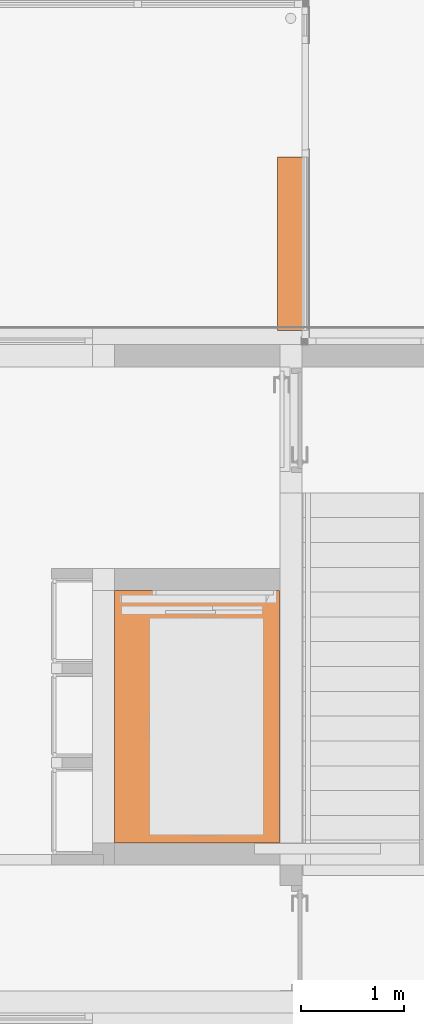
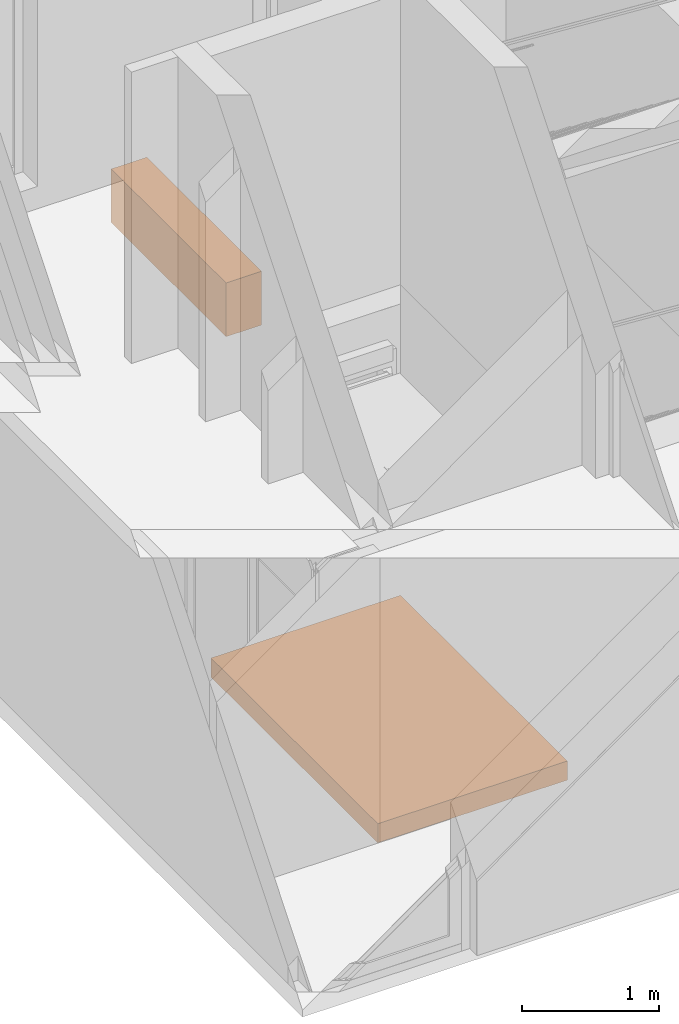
# One storey, part 115 of 117: 2 proxies.
"""IFC2X3 building model written with IfcOpenShell, lengths in millimetres."""

from ifc_helpers import new_model, entity, si_unit, converted_unit, derived_unit, money_unit, direction, frame, origin_with_axes, place, context, subcontext, project, spatial, faceted_brep, material, type_object, element, save


model = new_model("IFC2X3")

# Units and contexts
model_context = context("Model", 3, precision=0.01, world=origin_with_axes(), true_north=direction((0.0, 1.0)))
body_context = subcontext(model_context, "Body", "Model", "MODEL_VIEW")
ifc_project = project(units=[si_unit("LENGTHUNIT", "METRE", prefix="MILLI"), si_unit("AREAUNIT", "SQUARE_METRE"), si_unit("VOLUMEUNIT", "CUBIC_METRE"), converted_unit("PLANEANGLEUNIT", "DEGREE", entity("IfcPlaneAngleMeasure", 0.0174532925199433), si_unit("PLANEANGLEUNIT", "RADIAN"), dimensions=[0, 0, 0, 0, 0, 0, 0]), money_unit("EUR"), converted_unit("TIMEUNIT", "Year", entity("IfcTimeMeasure", 31557600.0), si_unit("TIMEUNIT", "SECOND"), dimensions=[0, 0, 1, 0, 0, 0, 0]), si_unit("MASSUNIT", "GRAM", prefix="KILO"), si_unit("THERMODYNAMICTEMPERATUREUNIT", "DEGREE_CELSIUS"), si_unit("LUMINOUSINTENSITYUNIT", "LUMEN"), si_unit("ENERGYUNIT", "JOULE", prefix="MEGA"), derived_unit("THERMALCONDUCTANCEUNIT", [(si_unit("POWERUNIT", "WATT"), 1), (si_unit("LENGTHUNIT", "METRE"), -1), (si_unit("THERMODYNAMICTEMPERATUREUNIT", "KELVIN"), -1)]), derived_unit("SPECIFICHEATCAPACITYUNIT", [(si_unit("ENERGYUNIT", "JOULE"), 1), (si_unit("MASSUNIT", "GRAM", prefix="KILO"), -1), (si_unit("THERMODYNAMICTEMPERATUREUNIT", "KELVIN"), -1)]), derived_unit("MASSDENSITYUNIT", [(si_unit("MASSUNIT", "GRAM", prefix="KILO"), 1), (si_unit("VOLUMEUNIT", "CUBIC_METRE"), -1)])], contexts=[model_context])

# Site, building, storey
site_placement = place(None, origin_with_axes())
site = spatial("IfcSite", under=ifc_project, at=site_placement, Name="Site", CompositionType="ELEMENT")
building_placement = place(site_placement, origin_with_axes())
building = spatial("IfcBuilding", under=site, at=building_placement, Name="Naam gebouw", CompositionType="ELEMENT")
storey_placement = place(building_placement, frame((0.0, 0.0, 4150.0), z_axis=(0.0, 0.0, 1.0), x_axis=(1.0, 0.0, 0.0)))
storey = spatial("IfcBuildingStorey", under=building, at=storey_placement, Name="1e verdieping N", CompositionType="ELEMENT", Elevation=4150.0)

# Proxies
ifc_material = material(Name="IFC Building Material")
building_element_proxy_type_1 = type_object("IfcBuildingElementProxyType", Name="IFC Opening Extruded", PredefinedType="NOTDEFINED")
proxy_1_placement = place(storey_placement, frame((28651.00001269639, 22625.91242505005, -4150.000000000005), z_axis=(0.0, 0.0, 1.0), x_axis=(0.0, 1.0, 0.0)))
element("IfcBuildingElementProxy", 1, at=proxy_1_placement, inside=storey, type_object=building_element_proxy_type_1, material=ifc_material, Name="_Object-x", context=body_context, shape_type="Brep", body=[
    faceted_brep([(14174.00000127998, -4846.999987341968, 210.0), (14174.00000127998, -3246.999987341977, 210.0), (14174.00000127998, -3246.999987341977, 379.9999999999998), (14174.00000127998, -4846.999987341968, 379.9999999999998), (11734.00000127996, -4846.999987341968, 210.0), (11734.00000127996, -3246.999987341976, 210.0), (11734.00000127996, -3246.999987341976, 379.9999999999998), (11734.00000127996, -4846.999987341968, 379.9999999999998)], [[[0, 1, 2, 3]], [[0, 4, 5, 1]], [[1, 5, 6, 2]], [[3, 2, 6, 7]], [[4, 0, 3, 7]], [[5, 4, 7, 6]]]),
])
building_element_proxy_type_2 = type_object("IfcBuildingElementProxyType", Name="71_postkasten BBK 10 stuks R21:71_postkasten BBK 10 stuks R21", PredefinedType="NOTDEFINED")
proxy_2_placement = place(storey_placement, frame((33778.0000000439, 39314.91242628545, -2981.666666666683), z_axis=(0.0, 0.0, 1.0), x_axis=(0.0, 1.0, 0.0)))
element("IfcBuildingElementProxy", 2, at=proxy_2_placement, inside=storey, type_object=building_element_proxy_type_2, material=ifc_material, Name="71_postkasten BBK 10 stuks R21:71_postkasten BBK 10 stuks R21", context=body_context, shape_type="Brep", body=[
    faceted_brep([(1301.50000000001, -10.0, 331.5000000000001), (1609.50000000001, -10.0, 331.5000000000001), (1609.50000000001, -10.0, 409.5000000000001), (1301.50000000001, -10.0, 409.5000000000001), (1301.50000000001, 0.0, 331.5000000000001), (1609.50000000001, 0.0, 331.5000000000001), (1609.50000000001, 0.0, 409.5000000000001), (1301.50000000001, 0.0, 409.5000000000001)], [[[0, 1, 2, 3]], [[0, 4, 5, 1]], [[1, 5, 6, 2]], [[3, 2, 6, 7]], [[4, 0, 3, 7]], [[5, 4, 7, 6]]]),
    faceted_brep([(1301.50000000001, -10.0, 161.5), (1609.50000000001, -10.0, 161.5), (1609.50000000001, -10.0, 239.5), (1301.50000000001, -10.0, 239.5), (1301.50000000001, 0.0, 161.5), (1609.50000000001, 0.0, 161.5), (1609.50000000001, 0.0, 239.5), (1301.50000000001, 0.0, 239.5)], [[[0, 1, 2, 3]], [[0, 4, 5, 1]], [[1, 5, 6, 2]], [[3, 2, 6, 7]], [[4, 0, 3, 7]], [[5, 4, 7, 6]]]),
    faceted_brep([(993.4999999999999, -10.0, 331.5000000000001), (1301.5, -10.0, 331.5000000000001), (1301.5, -10.0, 409.5000000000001), (993.4999999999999, -10.0, 409.5000000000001), (993.4999999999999, 0.0, 331.5000000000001), (1301.5, 0.0, 331.5000000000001), (1301.5, 0.0, 409.5000000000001), (993.4999999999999, 0.0, 409.5000000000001)], [[[0, 1, 2, 3]], [[0, 4, 5, 1]], [[1, 5, 6, 2]], [[3, 2, 6, 7]], [[4, 0, 3, 7]], [[5, 4, 7, 6]]]),
    faceted_brep([(993.4999999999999, -10.0, 161.5), (1301.5, -10.0, 161.5), (1301.5, -10.0, 239.5), (993.4999999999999, -10.0, 239.5), (993.4999999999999, 0.0, 161.5), (1301.5, 0.0, 161.5), (1301.5, 0.0, 239.5), (993.4999999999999, 0.0, 239.5)], [[[0, 1, 2, 3]], [[0, 4, 5, 1]], [[1, 5, 6, 2]], [[3, 2, 6, 7]], [[4, 0, 3, 7]], [[5, 4, 7, 6]]]),
    faceted_brep([(685.5, -10.0, 331.5000000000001), (993.5, -10.0, 331.5000000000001), (993.5, -10.0, 409.5000000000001), (685.5, -10.0, 409.5000000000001), (685.5, 0.0, 331.5000000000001), (993.5, 0.0, 331.5000000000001), (993.5, 0.0, 409.5000000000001), (685.5, 0.0, 409.5000000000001)], [[[0, 1, 2, 3]], [[0, 4, 5, 1]], [[1, 5, 6, 2]], [[3, 2, 6, 7]], [[4, 0, 3, 7]], [[5, 4, 7, 6]]]),
    faceted_brep([(685.5, -10.0, 161.5), (993.5, -10.0, 161.5), (993.5, -10.0, 239.5), (685.5, -10.0, 239.5), (685.5, 0.0, 161.5), (993.5, 0.0, 161.5), (993.5, 0.0, 239.5), (685.5, 0.0, 239.5)], [[[0, 1, 2, 3]], [[0, 4, 5, 1]], [[1, 5, 6, 2]], [[3, 2, 6, 7]], [[4, 0, 3, 7]], [[5, 4, 7, 6]]]),
    faceted_brep([(377.4999999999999, -10.0, 331.5000000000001), (685.5, -10.0, 331.5000000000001), (685.5, -10.0, 409.5000000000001), (377.4999999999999, -10.0, 409.5000000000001), (377.4999999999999, 0.0, 331.5000000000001), (685.5, 0.0, 331.5000000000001), (685.5, 0.0, 409.5000000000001), (377.4999999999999, 0.0, 409.5000000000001)], [[[0, 1, 2, 3]], [[0, 4, 5, 1]], [[1, 5, 6, 2]], [[3, 2, 6, 7]], [[4, 0, 3, 7]], [[5, 4, 7, 6]]]),
    faceted_brep([(377.4999999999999, -10.0, 161.5), (685.5, -10.0, 161.5), (685.5, -10.0, 239.5), (377.4999999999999, -10.0, 239.5), (377.4999999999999, 0.0, 161.5), (685.5, 0.0, 161.5), (685.5, 0.0, 239.5), (377.4999999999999, 0.0, 239.5)], [[[0, 1, 2, 3]], [[0, 4, 5, 1]], [[1, 5, 6, 2]], [[3, 2, 6, 7]], [[4, 0, 3, 7]], [[5, 4, 7, 6]]]),
    faceted_brep([(69.49999999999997, -10.0, 331.5000000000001), (377.5000000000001, -10.0, 331.5000000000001), (377.5000000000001, -10.0, 409.5000000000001), (69.49999999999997, -10.0, 409.5000000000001), (69.49999999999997, 0.0, 331.5000000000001), (377.5000000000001, 0.0, 331.5000000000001), (377.5000000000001, 0.0, 409.5000000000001), (69.49999999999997, 0.0, 409.5000000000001)], [[[0, 1, 2, 3]], [[0, 4, 5, 1]], [[1, 5, 6, 2]], [[3, 2, 6, 7]], [[4, 0, 3, 7]], [[5, 4, 7, 6]]]),
    faceted_brep([(69.49999999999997, -10.0, 161.5), (377.5000000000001, -10.0, 161.5), (377.5000000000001, -10.0, 239.5), (69.49999999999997, -10.0, 239.5), (69.49999999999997, 0.0, 161.5), (377.5000000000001, 0.0, 161.5), (377.5000000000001, 0.0, 239.5), (69.49999999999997, 0.0, 239.5)], [[[0, 1, 2, 3]], [[0, 4, 5, 1]], [[1, 5, 6, 2]], [[3, 2, 6, 7]], [[4, 0, 3, 7]], [[5, 4, 7, 6]]]),
    faceted_brep([(0.0, 0.0, 0.0), (1679.50000000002, 0.0, 0.0), (1679.50000000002, 0.0, 479.5000000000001), (0.0, 0.0, 479.5000000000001), (0.0, 300.0000000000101, 0.0), (1679.50000000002, 300.0000000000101, 0.0), (1679.50000000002, 300.0000000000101, 479.5000000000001), (0.0, 300.0000000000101, 479.5000000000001)], [[[0, 1, 2, 3]], [[0, 4, 5, 1]], [[1, 5, 6, 2]], [[3, 2, 6, 7]], [[4, 0, 3, 7]], [[5, 4, 7, 6]]]),
])

save(model, "model.ifc")
